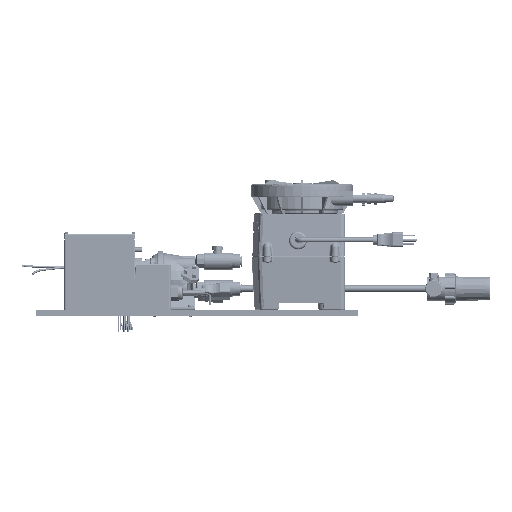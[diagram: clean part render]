
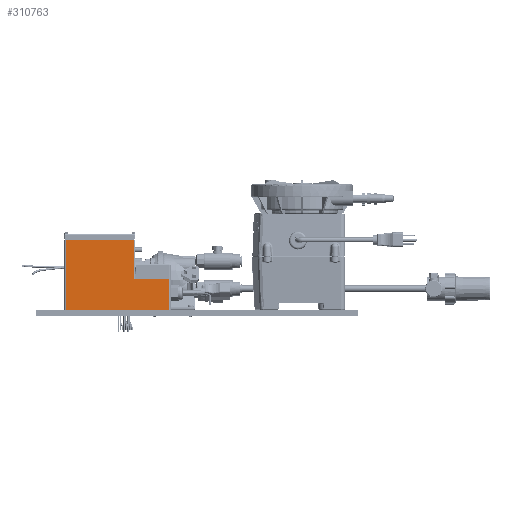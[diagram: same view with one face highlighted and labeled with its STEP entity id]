
A CAD part, left-side view. The second image highlights one B-rep face of the part: STEP entity #310763.
In plain terms, the highlighted planar face has unit normal (-1, 0, 0).
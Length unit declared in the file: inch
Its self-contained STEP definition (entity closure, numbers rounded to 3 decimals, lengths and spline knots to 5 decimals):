
#3839 = VECTOR ( 'NONE', #568648, 39.37008 ) ;
#15311 = VERTEX_POINT ( 'NONE', #479798 ) ;
#33433 = VERTEX_POINT ( 'NONE', #161124 ) ;
#45354 = VECTOR ( 'NONE', #389050, 39.37008 ) ;
#52065 = VECTOR ( 'NONE', #413358, 39.37008 ) ;
#55436 = VERTEX_POINT ( 'NONE', #246479 ) ;
#88234 = CARTESIAN_POINT ( 'NONE',  ( 1.75044, -1.674, 4.2 ) ) ;
#111537 = AXIS2_PLACEMENT_3D ( 'NONE', #88234, #397419, #489790 ) ;
#124046 = ORIENTED_EDGE ( 'NONE', *, *, #340357, .T. ) ;
#150086 = VERTEX_POINT ( 'NONE', #647058 ) ;
#161124 = CARTESIAN_POINT ( 'NONE',  ( 1.75044, -1.774, 4.1 ) ) ;
#163798 = LINE ( 'NONE', #367716, #3839 ) ;
#186058 = ORIENTED_EDGE ( 'NONE', *, *, #459946, .T. ) ;
#198820 = ORIENTED_EDGE ( 'NONE', *, *, #614381, .T. ) ;
#246479 = CARTESIAN_POINT ( 'NONE',  ( 1.75044, -5.774, 1.8 ) ) ;
#248461 = ORIENTED_EDGE ( 'NONE', *, *, #437950, .F. ) ;
#265280 = VERTEX_POINT ( 'NONE', #564174 ) ;
#310763 = ADVANCED_FACE ( 'Defeatured_23_33', ( #443671 ), #539246, .F. ) ;
#311807 = VERTEX_POINT ( 'NONE', #421064 ) ;
#321378 = VECTOR ( 'NONE', #501456, 39.37008 ) ;
#337765 = VECTOR ( 'NONE', #439335, 39.37008 ) ;
#340357 = EDGE_CURVE ( 'Defeatured_23_33+Defeatured_23_37+Defeatured_23_45+Defeatured_23_44', #15311, #55436, #448753, .T. ) ;
#347105 = LINE ( 'NONE', #594060, #337765 ) ;
#367716 = CARTESIAN_POINT ( 'NONE',  ( 1.75044, -7.874, 4.2 ) ) ;
#374552 = EDGE_CURVE ( 'Defeatured_23_33+Defeatured_23_45+Defeatured_23_52+Defeatured_23_37', #150086, #15311, #163798, .T. ) ;
#389050 = DIRECTION ( 'NONE',  ( 0., -1., 0. ) ) ;
#397419 = DIRECTION ( 'NONE',  ( 1., 0., 0. ) ) ;
#401328 = CARTESIAN_POINT ( 'NONE',  ( 1.75044, -1.774, 4.2 ) ) ;
#413358 = DIRECTION ( 'NONE',  ( 0., -1., 0. ) ) ;
#421064 = CARTESIAN_POINT ( 'NONE',  ( 1.75044, -1.774, 0. ) ) ;
#437950 = EDGE_CURVE ( 'Defeatured_23_36+Defeatured_23_33+Defeatured_23_41+Defeatured_23_44', #33433, #265280, #648204, .T. ) ;
#439335 = DIRECTION ( 'NONE',  ( 0., 0., 1. ) ) ;
#443671 = FACE_OUTER_BOUND ( 'NONE', #485358, .T. ) ;
#447599 = ORIENTED_EDGE ( 'NONE', *, *, #374552, .T. ) ;
#448753 = LINE ( 'NONE', #646246, #321378 ) ;
#454028 = LINE ( 'NONE', #401328, #505976 ) ;
#459946 = EDGE_CURVE ( 'Defeatured_23_33+Defeatured_23_41+Defeatured_23_36+Defeatured_23_52', #33433, #311807, #454028, .T. ) ;
#479798 = CARTESIAN_POINT ( 'NONE',  ( 1.75044, -7.874, 1.8 ) ) ;
#485358 = EDGE_LOOP ( 'NONE', ( #248461, #186058, #198820, #447599, #124046, #548719 ) ) ;
#489790 = DIRECTION ( 'NONE',  ( 0., 1., 0. ) ) ;
#501456 = DIRECTION ( 'NONE',  ( 0., 1., 0. ) ) ;
#505976 = VECTOR ( 'NONE', #552960, 39.37008 ) ;
#517915 = CARTESIAN_POINT ( 'NONE',  ( 1.75044, -1.674, 0. ) ) ;
#521171 = LINE ( 'NONE', #517915, #45354 ) ;
#539246 = PLANE ( 'NONE',  #111537 ) ;
#548719 = ORIENTED_EDGE ( 'NONE', *, *, #589660, .T. ) ;
#552960 = DIRECTION ( 'NONE',  ( 0., 0., -1. ) ) ;
#564174 = CARTESIAN_POINT ( 'NONE',  ( 1.75044, -5.774, 4.1 ) ) ;
#568648 = DIRECTION ( 'NONE',  ( 0., 0., 1. ) ) ;
#582742 = CARTESIAN_POINT ( 'NONE',  ( 1.75044, -1.674, 4.1 ) ) ;
#589660 = EDGE_CURVE ( 'Defeatured_23_33+Defeatured_23_44+Defeatured_23_37+Defeatured_23_36', #55436, #265280, #347105, .T. ) ;
#594060 = CARTESIAN_POINT ( 'NONE',  ( 1.75044, -5.774, 4.2 ) ) ;
#614381 = EDGE_CURVE ( 'Defeatured_23_33+Defeatured_23_52+Defeatured_23_41+Defeatured_23_45', #311807, #150086, #521171, .T. ) ;
#646246 = CARTESIAN_POINT ( 'NONE',  ( 1.75044, -5.874, 1.8 ) ) ;
#647058 = CARTESIAN_POINT ( 'NONE',  ( 1.75044, -7.874, 0. ) ) ;
#648204 = LINE ( 'NONE', #582742, #52065 ) ;
